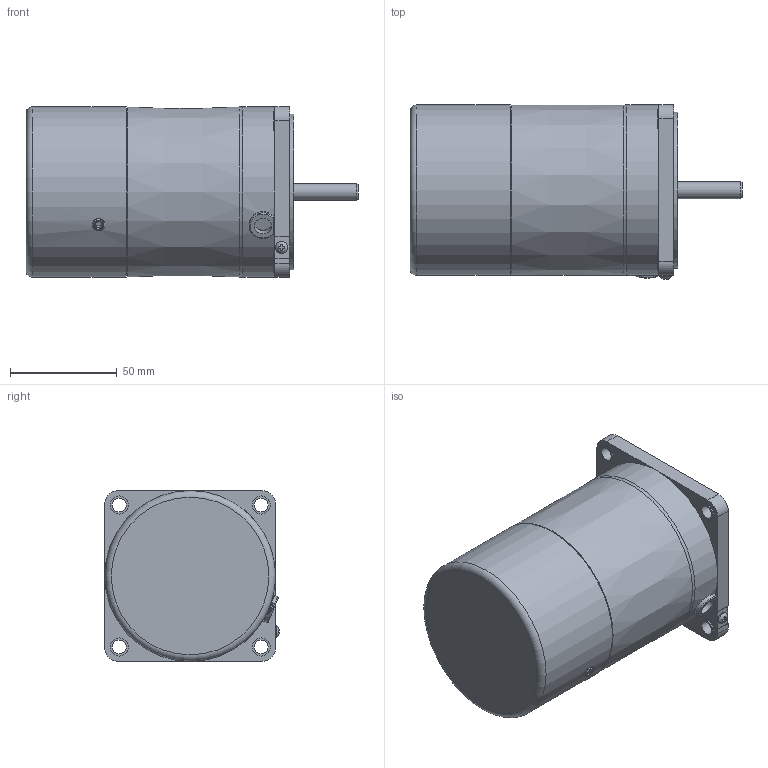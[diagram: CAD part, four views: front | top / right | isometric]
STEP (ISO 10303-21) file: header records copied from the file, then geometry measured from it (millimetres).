
FILE_DESCRIPTION(/* description */ (''),/* implementation_level */ '2;1');
FILE_NAME(/* name */ 'E:\도면작업\2016\0704) 미주향 SG 도면\3D MOTOR\ELECTROMAGNETIC BRAKE\SG8R(I)25S_-E.stp',/* time_stamp */ '2017-03-21T14:22:50+09:00',/* author */ ('jy-jung'),/* organization */ (''),/* preprocessor_version */ 'ST-DEVELOPER v15.6',/* originating_system */ 'Autodesk Inventor 2015',/* authorisation */ '');
FILE_SCHEMA (('AUTOMOTIVE_DESIGN { 1 0 10303 214 3 1 1 }'));
Length unit declared in the file: millimetre
Products named in the file (1): 부품23
Bounding box: 155.5 x 81.76 x 80 mm (x, y, z)
Volume: 622248.2 mm3; surface area: 47767.1 mm2
Topology: 1 solids, 2 shells, 116 faces, 269 edges, 177 vertices
Faces by surface type: plane 69, cylinder 38, torus 6, cone 2, bspline 1
Full cylindrical faces by diameter (mm): 3.1 x1, 4.6 x1, 5 x2, 5.6 x1, 6 x1, 6.5 x4, 8 x2, 8.5 x4, 34 x1, 73 x1, 78 x1, 79.8 x1, 80 x1
Entity records: 3475 total; most frequent: CARTESIAN_POINT 710, DIRECTION 544, ORIENTED_EDGE 478, EDGE_CURVE 239, AXIS2_PLACEMENT_3D 209, VERTEX_POINT 175, EDGE_LOOP 172, LINE 126
